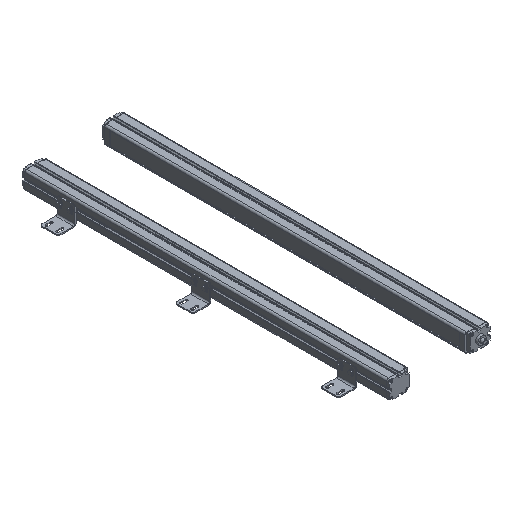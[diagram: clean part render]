
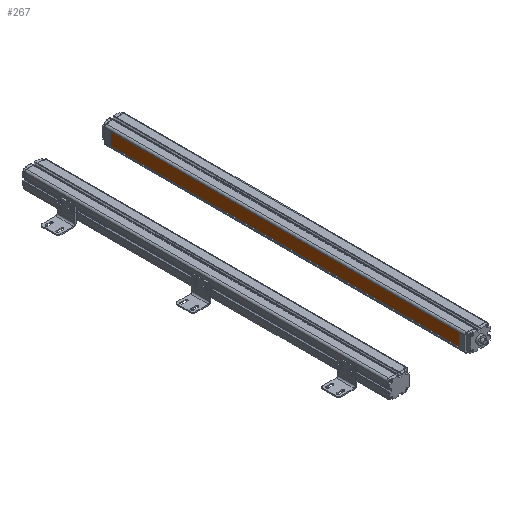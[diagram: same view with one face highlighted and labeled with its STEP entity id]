
A CAD part, isometric view. The second image highlights one B-rep face of the part: STEP entity #267.
In plain terms, the highlighted planar face has unit normal (-1, 0, 0).
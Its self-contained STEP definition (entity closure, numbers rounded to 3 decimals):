
#267 = ADVANCED_FACE( '', ( #960 ), #961, .F. );
#960 = FACE_OUTER_BOUND( '', #2402, .T. );
#961 = PLANE( '', #2403 );
#2402 = EDGE_LOOP( '', ( #3851, #3852, #3853, #3854 ) );
#2403 = AXIS2_PLACEMENT_3D( '', #3855, #3856, #3857 );
#3851 = ORIENTED_EDGE( '', *, *, #9801, .F. );
#3852 = ORIENTED_EDGE( '', *, *, #9802, .F. );
#3853 = ORIENTED_EDGE( '', *, *, #9803, .F. );
#3854 = ORIENTED_EDGE( '', *, *, #9804, .F. );
#3855 = CARTESIAN_POINT( '', ( 2.444, 0., 0. ) );
#3856 = DIRECTION( '', ( 1., 0., 0. ) );
#3857 = DIRECTION( '', ( 0., 0., -1. ) );
#9801 = EDGE_CURVE( '', #11752, #11753, #11754, .T. );
#9802 = EDGE_CURVE( '', #11755, #11752, #11756, .T. );
#9803 = EDGE_CURVE( '', #11757, #11755, #11758, .T. );
#9804 = EDGE_CURVE( '', #11753, #11757, #11759, .T. );
#11752 = VERTEX_POINT( '', #15012 );
#11753 = VERTEX_POINT( '', #15013 );
#11754 = LINE( '', #15014, #15015 );
#11755 = VERTEX_POINT( '', #15016 );
#11756 = LINE( '', #15017, #15018 );
#11757 = VERTEX_POINT( '', #15019 );
#11758 = LINE( '', #15020, #15021 );
#11759 = LINE( '', #15022, #15023 );
#15012 = CARTESIAN_POINT( '', ( 2.444, 998., 19. ) );
#15013 = CARTESIAN_POINT( '', ( 2.444, 25., 19. ) );
#15014 = CARTESIAN_POINT( '', ( 2.444, 998., 19. ) );
#15015 = VECTOR( '', #19678, 1000. );
#15016 = CARTESIAN_POINT( '', ( 2.444, 998., -19. ) );
#15017 = CARTESIAN_POINT( '', ( 2.444, 998., -19. ) );
#15018 = VECTOR( '', #19679, 1000. );
#15019 = CARTESIAN_POINT( '', ( 2.444, 25., -19. ) );
#15020 = CARTESIAN_POINT( '', ( 2.444, 25., -19. ) );
#15021 = VECTOR( '', #19680, 1000. );
#15022 = CARTESIAN_POINT( '', ( 2.444, 25., 19. ) );
#15023 = VECTOR( '', #19681, 1000. );
#19678 = DIRECTION( '', ( 0., -1., 0. ) );
#19679 = DIRECTION( '', ( 0., 0., 1. ) );
#19680 = DIRECTION( '', ( 0., 1., 0. ) );
#19681 = DIRECTION( '', ( 0., 0., -1. ) );
